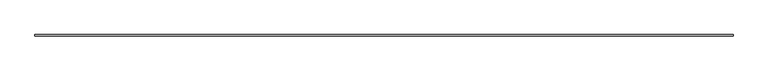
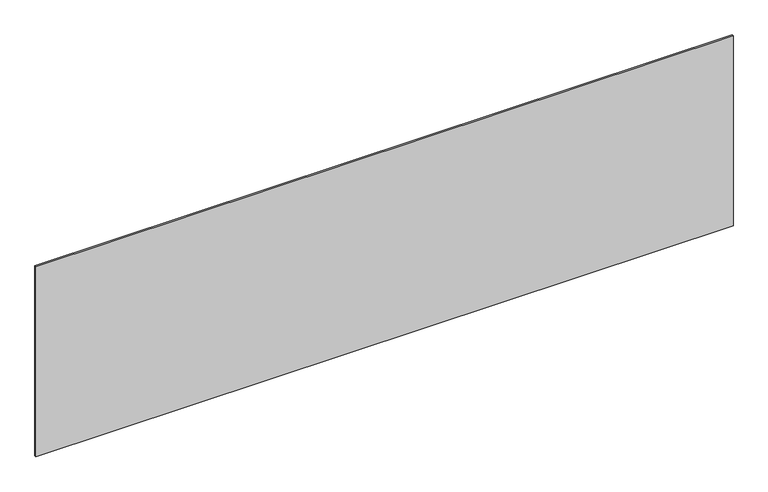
"""IFC4 building model written with IfcOpenShell, lengths in millimetres: plate geometry, システム パネル : 標準."""

from ifc_helpers import new_model, si_unit, origin, origin_with_axes, place, context, project, spatial, polyline, outline, extrude, source, transform, mapped, element, save


def plate_2c6e092e(model_context):
    return source(origin(), model_context, "Body", "SweptSolid", [
        extrude(outline(polyline([(2281.6666667, -5.0), (-2281.6666667, -5.0), (-2281.6666667, 5.0), (2281.6666667, 5.0), (2281.6666667, -5.0)])), origin_with_axes(), (0.0, 0.0, 1.0), 1315.5633458),
    ])


if __name__ == "__main__":
    model = new_model("IFC4")
    model_context = context("Model", 3, world=origin())
    ifc_project = project(units=[si_unit("LENGTHUNIT", "METRE", prefix="MILLI")], contexts=[model_context])
    site = spatial("IfcSite", under=ifc_project)
    building = spatial("IfcBuilding", under=site)
    placement = place(None, origin())
    plate_shape = plate_2c6e092e(model_context)
    element("IfcPlate", 1, ObjectType="システム パネル : 標準", at=placement, inside=building, context=model_context, shape_type="MappedRepresentation", body=[
        mapped(plate_shape, transform((0.0, 0.0, 0.0), x_axis=(1.0, 0.0, 0.0), y_axis=(0.0, 1.0, 0.0), z_axis=(0.0, 0.0, 1.0))),
    ])
    save(model, "model.ifc")
